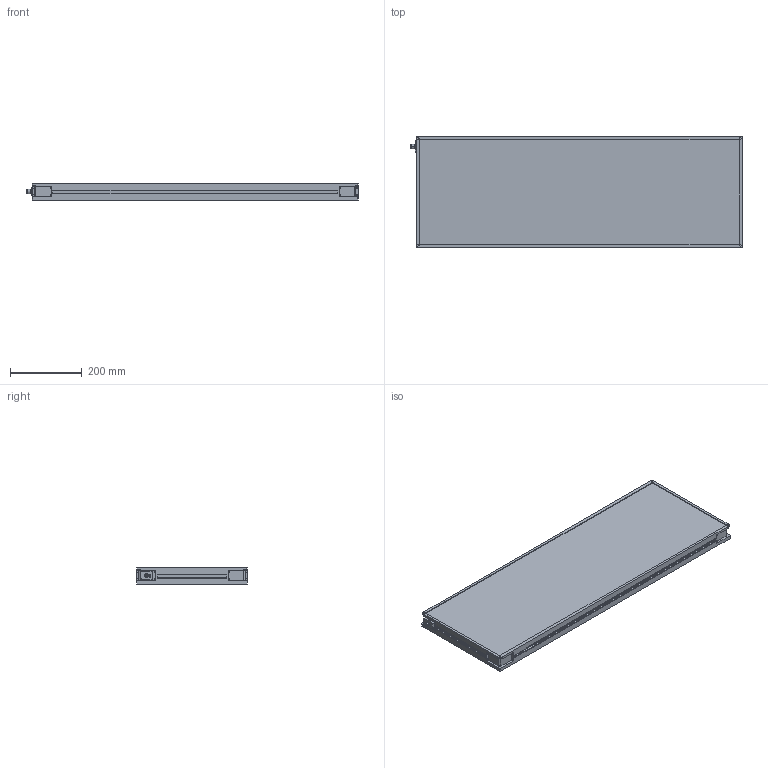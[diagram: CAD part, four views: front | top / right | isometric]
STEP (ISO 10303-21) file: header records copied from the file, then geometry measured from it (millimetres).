
FILE_DESCRIPTION (( 'STEP AP214' ), '1' );
FILE_NAME ('MBACK-xxxx-xxx-M1_CLIENT300x900.STEP', '2022-03-31T16:04:00', ( '' ), ( '' ), 'SwSTEP 2.0', 'SolidWorks 2020', '' );
FILE_SCHEMA (( 'AUTOMOTIVE_DESIGN' ));
Length unit declared in the file: millimetre
Products named in the file (1): MBACK-xxxx-xxx-M1_CLIENT300x900
Bounding box: 925.9 x 308 x 45.5 mm (x, y, z)
Volume: 11590295.7 mm3; surface area: 720699.4 mm2
Topology: 1 solids, 1 shells, 442 faces, 1144 edges, 760 vertices
Faces by surface type: plane 249, cylinder 105, bspline 80, cone 8
Entity records: 17236 total; most frequent: CARTESIAN_POINT 6699, ORIENTED_EDGE 2288, DIRECTION 1936, EDGE_CURVE 1144, VERTEX_POINT 760, LINE 758, VECTOR 758, AXIS2_PLACEMENT_3D 589
